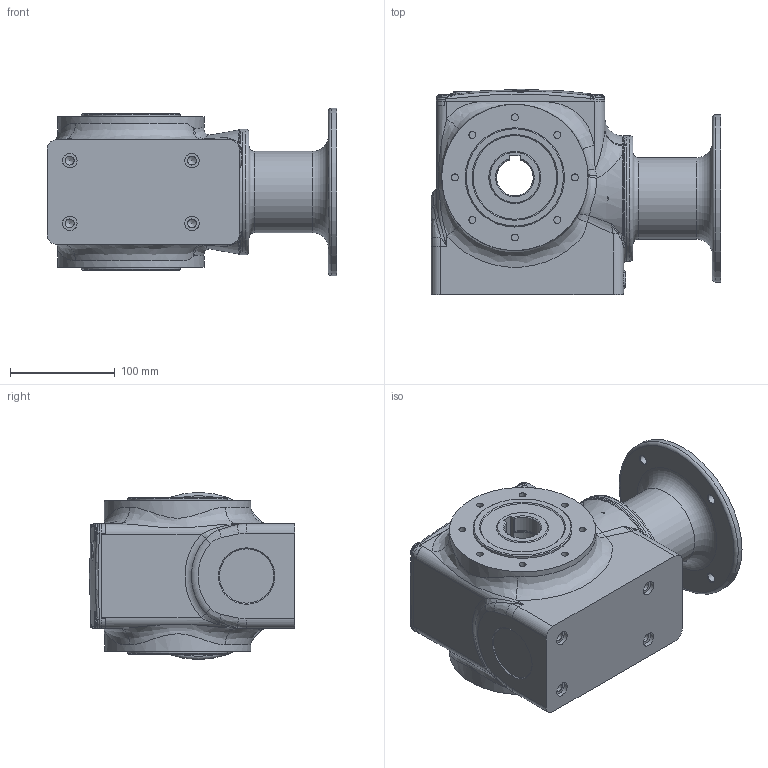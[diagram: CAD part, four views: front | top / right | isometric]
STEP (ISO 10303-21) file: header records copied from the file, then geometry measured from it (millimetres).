
FILE_DESCRIPTION(/* description */ (''),/* implementation_level */ '2;1');
FILE_NAME(/* name */ 'Z:\Dertec\RVS pakket tekeningen\Kasten\FSA + FS serie\FSA\FSA58\Step Customer\FSA58 HA35 AMFL 100B14A #.stp',/* time_stamp */ '2017-12-08T12:14:20+01:00',/* author */ ('Dertec'),/* organization */ (''),/* preprocessor_version */ 'ST-DEVELOPER v16.1',/* originating_system */ 'Autodesk Inventor 2016',/* authorisation */ '');
FILE_SCHEMA (('AUTOMOTIVE_DESIGN { 1 0 10303 214 3 1 1 }'));
Length unit declared in the file: inch
Products named in the file (1): Part65
Bounding box: 277 x 196.41 x 160 mm (x, y, z)
Volume: 3873878 mm3; surface area: 350731 mm2
Topology: 1 solids, 8 shells, 557 faces, 1270 edges, 775 vertices
Faces by surface type: bspline 168, plane 147, cylinder 138, torus 55, cone 47, sphere 2
Full cylindrical faces by diameter (mm): 4.917 x4, 6.644 x1, 6.647 x22, 7 x4, 8.376 x4, 8.917 x1, 9 x4, 11 x4, 14 x4, 46 x1, 47 x1, 49.9 x2, 50 x2, 50.2 x1, 52 x1, 55 x1, 62 x1, 68 x2, 68.4 x1, 69 x1, 71 x1, 72 x1, 78 x1, 80 x5, 83.5 x2, 84 x1, 87 x1, 95 x2, 110 x1, 114 x1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
Entity records: 30912 total; most frequent: CARTESIAN_POINT 19579, ORIENTED_EDGE 2112, DIRECTION 1999, EDGE_CURVE 1056, AXIS2_PLACEMENT_3D 902, EDGE_LOOP 779, VERTEX_POINT 719, STYLED_ITEM 558
